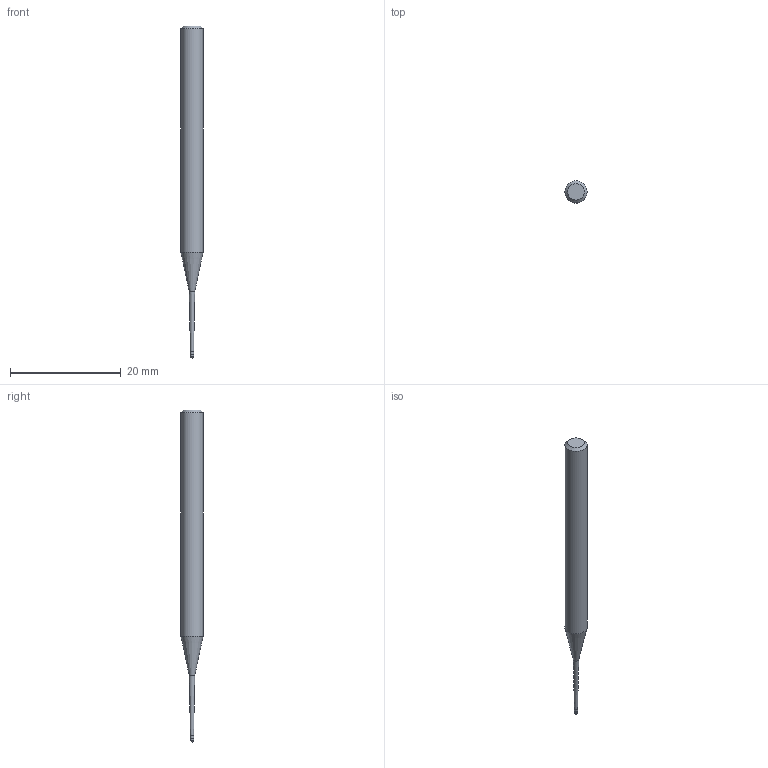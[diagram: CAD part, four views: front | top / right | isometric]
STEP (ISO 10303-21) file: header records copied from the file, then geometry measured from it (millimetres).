
FILE_DESCRIPTION((''),'2;1');
FILE_NAME('C:\Users\nsx150\AppData\Local\Temp\Mastercam 2021\SNAKH10GOD\TEMP.step','2021-10-21T13:31:29',(''),(''),'STEP Write','Mastercam 2021 ... CNC Software, Inc.','');
FILE_SCHEMA(('AUTOMOTIVE_DESIGN'));
Length unit declared in the file: millimetre
Products named in the file (1): None
Bounding box: 4 x 4 x 60 mm (x, y, z)
Volume: 556.9 mm3; surface area: 608.6 mm2
Topology: 2 solids, 2 shells, 10 faces, 16 edges, 9 vertices
Faces by surface type: plane 3, cylinder 3, cone 3, sphere 1
Full cylindrical faces by diameter (mm): 0.585 x1, 0.6 x1, 4 x1
Entity records: 232 total; most frequent: DIRECTION 40, CARTESIAN_POINT 28, AXIS2_PLACEMENT_3D 20, ORIENTED_EDGE 16, EDGE_LOOP 16, STYLED_ITEM 13, ADVANCED_FACE 10, FACE_BOUND 9
